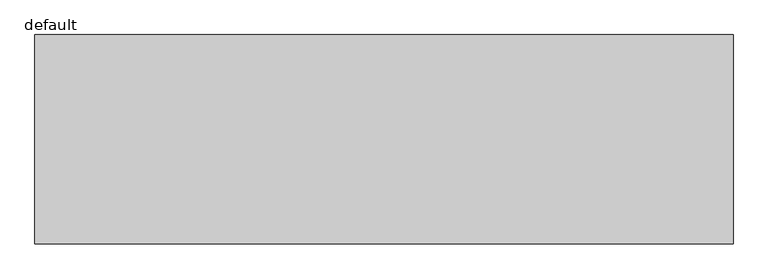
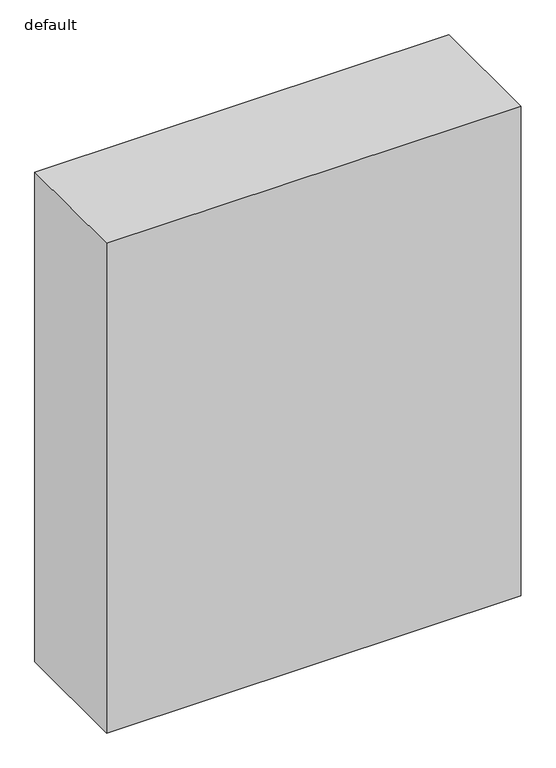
"""IFC4 building model written with IfcOpenShell, lengths in millimetres: furniture geometry, Fu_шкаф встроенный_LEG : default."""

import ifcopenshell
import ifcopenshell.guid

model = None  # the IFC model being written
_history = None  # IfcOwnerHistory: only IFC2X3 demands one
_inside = {}  # id of a spatial element -> (the spatial element, [elements in it])
_under = {}  # id of a project, library or spatial element -> (it, [spatial elements below it])
_declared = {}  # id of a project -> (the project, [libraries it declares])
_typed = {}  # id of a type object -> (the type object, [elements of that type])
_made_of = {}  # id of a material, layer set ... -> (it, [elements and type objects made of it])


def new_model(schema):
    """Start an empty IFC model of exactly this schema.

    Asked for "IFC4X3", IfcOpenShell would pick the latest addendum, in which some entities
    have other attributes; the version numbers below select the first issue.
    IFC2X3 requires an IfcOwnerHistory on every rooted entity: one is made here for all.
    """
    global model, _history
    if schema == "IFC4X3":
        model = ifcopenshell.file(schema_version=(4, 3, 0, 0))
    else:
        model = ifcopenshell.file(schema=schema)
    _inside.clear()
    _under.clear()
    _declared.clear()
    _typed.clear()
    _made_of.clear()
    _history = None
    if model.schema == "IFC2X3":
        org = make("IfcOrganization", Name="unknown")
        user = make(
            "IfcPersonAndOrganization",
            ThePerson=make("IfcPerson", FamilyName="unknown"),
            TheOrganization=org,
        )
        app = make(
            "IfcApplication",
            ApplicationDeveloper=org,
            Version="unknown",
            ApplicationFullName="unknown",
            ApplicationIdentifier="unknown",
        )
        _history = make(
            "IfcOwnerHistory",
            OwningUser=user,
            OwningApplication=app,
            ChangeAction="ADDED",
            CreationDate=0,
        )
    return model


def make(cls, **values):
    """One entity of the class cls with the attributes given. An attribute that is None is left unset."""
    return model.create_entity(
        cls, **{name: value for name, value in values.items() if value is not None}
    )


def rooted(cls, **values):
    """An entity with a GlobalId (a new one), such as an element, a storey or a relation."""
    return make(cls, GlobalId=ifcopenshell.guid.new(), OwnerHistory=_history, **values)


def si_unit(unit_type, name, prefix=None):
    """IfcSIUnit, for example si_unit("LENGTHUNIT", "METRE", prefix="MILLI")."""
    return make("IfcSIUnit", UnitType=unit_type, Prefix=prefix, Name=name)


def assignment(units):
    """IfcUnitAssignment: the units of a project."""
    return None if units is None else make("IfcUnitAssignment", Units=units)


def point(xyz):
    """IfcCartesianPoint."""
    return None if xyz is None else make("IfcCartesianPoint", Coordinates=xyz)


def direction(xyz):
    """IfcDirection."""
    return None if xyz is None else make("IfcDirection", DirectionRatios=xyz)


def frame(location, z_axis=None, x_axis=None):
    """IfcAxis2Placement3D, a coordinate frame: its origin and axes. An axis left out is left unset."""
    return make(
        "IfcAxis2Placement3D",
        Location=point(location),
        Axis=direction(z_axis),
        RefDirection=direction(x_axis),
    )


def origin():
    """The frame at (0, 0, 0) with its axes left unset."""
    return frame((0.0, 0.0, 0.0))


def origin_with_axes():
    """The frame at (0, 0, 0) with the z axis (0, 0, 1) and the x axis (1, 0, 0) written out."""
    return frame((0.0, 0.0, 0.0), z_axis=(0.0, 0.0, 1.0), x_axis=(1.0, 0.0, 0.0))


def place(relative_to, where):
    """IfcLocalPlacement: puts the frame where relative to a parent placement (None: the world)."""
    return make(
        "IfcLocalPlacement", PlacementRelTo=relative_to, RelativePlacement=where
    )


def context(
    kind, dimensions, precision=None, world=None, true_north=None, identifier=None
):
    """IfcGeometricRepresentationContext, for example the 3D "Model" context."""
    return make(
        "IfcGeometricRepresentationContext",
        ContextIdentifier=identifier,
        ContextType=kind,
        CoordinateSpaceDimension=dimensions,
        Precision=precision,
        WorldCoordinateSystem=world,
        TrueNorth=true_north,
    )


def project(units=None, contexts=None):
    """IfcProject with its units and contexts."""
    return rooted(
        "IfcProject",
        Name="project",
        RepresentationContexts=contexts,
        UnitsInContext=assignment(units),
    )


def spatial(cls, under=None, at=None, **own):
    """A site, building, storey or space (cls), placed at a placement, below another one or the project."""
    s = rooted(cls, ObjectPlacement=at, **own)
    if under is not None:
        _under.setdefault(under.id(), (under, []))[1].append(s)
    return s


def polyline(points):
    """IfcPolyline through the points."""
    return make("IfcPolyline", Points=[point(p) for p in points])


def outline(outer, holes=None, kind="AREA"):
    """IfcArbitraryClosedProfileDef: a profile drawn as a closed curve; with holes, ...WithVoids."""
    if holes is None:
        return make("IfcArbitraryClosedProfileDef", ProfileType=kind, OuterCurve=outer)
    return make(
        "IfcArbitraryProfileDefWithVoids",
        ProfileType=kind,
        OuterCurve=outer,
        InnerCurves=holes,
    )


def extrude(swept, where, along, depth):
    """IfcExtrudedAreaSolid: the profile swept, set in the frame where, extruded along a direction by depth."""
    return make(
        "IfcExtrudedAreaSolid",
        SweptArea=swept,
        Position=where,
        ExtrudedDirection=direction(along),
        Depth=depth,
    )


def shape(context_of_items, identifier, shape_type, items):
    """IfcShapeRepresentation: the items that make up one representation, for example the "Body"."""
    return make(
        "IfcShapeRepresentation",
        ContextOfItems=context_of_items,
        RepresentationIdentifier=identifier,
        RepresentationType=shape_type,
        Items=items,
    )


def source(mapping_origin, context_of_items, identifier, shape_type, items):
    """IfcRepresentationMap: a shape defined once, which mapped items show again and again."""
    return make(
        "IfcRepresentationMap",
        MappingOrigin=mapping_origin,
        MappedRepresentation=shape(context_of_items, identifier, shape_type, items),
    )


def transform(
    local_origin,
    x_axis=None,
    y_axis=None,
    z_axis=None,
    scale=None,
    scale2=None,
    scale3=None,
    uniform=True,
):
    """IfcCartesianTransformationOperator3D, or its non-uniform kind. x_axis, y_axis, z_axis: its Axis1, 2, 3."""
    if uniform:
        return make(
            "IfcCartesianTransformationOperator3D",
            Axis1=direction(x_axis),
            Axis2=direction(y_axis),
            LocalOrigin=point(local_origin),
            Scale=scale,
            Axis3=direction(z_axis),
        )
    return make(
        "IfcCartesianTransformationOperator3DnonUniform",
        Axis1=direction(x_axis),
        Axis2=direction(y_axis),
        LocalOrigin=point(local_origin),
        Scale=scale,
        Axis3=direction(z_axis),
        Scale2=scale2,
        Scale3=scale3,
    )


def mapped(mapping_source, mapping_target):
    """IfcMappedItem: shows the shape of a source again, moved by a transform."""
    return make(
        "IfcMappedItem", MappingSource=mapping_source, MappingTarget=mapping_target
    )


def made_of(thing, what):
    """Note that an element or type object is made of a material, layer set ...; save() writes the relation."""
    if what is not None:
        _made_of.setdefault(what.id(), (what, []))[1].append(thing)
    return thing


def element(
    cls,
    number,
    at=None,
    inside=None,
    cuts=None,
    type_object=None,
    material=None,
    context=None,
    identifier="Body",
    shape_type=None,
    held_by="IfcProductDefinitionShape",
    body=None,
    shapes=None,
    **own,
):
    """One element of the class cls, such as IfcWall. Its Tag is "e" and its number.

    at: its placement. inside: the storey or other place that contains it. cuts: it is an
    opening in that element (IfcRelVoidsElement). A single representation is given by context,
    identifier, shape_type and body (its items); several are given by shapes. held_by: the class
    of the entity that holds the representations. save() writes the other relations.
    """
    e = rooted(cls, Tag="e%d" % number, ObjectPlacement=at, **own)
    if body is not None:
        shapes = [shape(context, identifier, shape_type, body)]
    if shapes is not None:
        e.Representation = make(held_by, Representations=shapes)
    if inside is not None:
        _inside.setdefault(inside.id(), (inside, []))[1].append(e)
    if cuts is not None:
        rooted(
            "IfcRelVoidsElement", RelatingBuildingElement=cuts, RelatedOpeningElement=e
        )
    if type_object is not None:
        _typed.setdefault(type_object.id(), (type_object, []))[1].append(e)
    return made_of(e, material)


def aggregate(whole, parts):
    """IfcRelAggregates: a whole, such as a stair, and the parts it consists of."""
    return rooted("IfcRelAggregates", RelatingObject=whole, RelatedObjects=parts)


def save(model, path):
    """Write the relations noted so far, then the file.

    IfcRelAggregates (storeys below a building ...), IfcRelContainedInSpatialStructure (elements
    in a storey), IfcRelDefinesByType, IfcRelAssociatesMaterial and IfcRelDeclares: one each for
    every whole, place, type object, material and project.
    """
    for whole, parts in _under.values():
        aggregate(whole, parts)
    for where, things in _inside.values():
        rooted(
            "IfcRelContainedInSpatialStructure",
            RelatedElements=things,
            RelatingStructure=where,
        )
    for kind, things in _typed.values():
        rooted("IfcRelDefinesByType", RelatedObjects=things, RelatingType=kind)
    for what, things in _made_of.values():
        rooted("IfcRelAssociatesMaterial", RelatedObjects=things, RelatingMaterial=what)
    for by, libraries in _declared.values():
        rooted("IfcRelDeclares", RelatingContext=by, RelatedDefinitions=libraries)
    model.write(path)


def default_6ccb14ad(model_context):
    return source(origin(), model_context, "Body", "SweptSolid", [
        extrude(outline(polyline([(2002.2455305, 0.0), (0.0, 0.0), (0.0, 600.0), (2002.2455305, 600.0), (2002.2455305, 0.0)])), origin_with_axes(), (0.0, 0.0, 1.0), 2500.0),
    ])


if __name__ == "__main__":
    model = new_model("IFC4")
    model_context = context("Model", 3, world=origin())
    ifc_project = project(units=[si_unit("LENGTHUNIT", "METRE", prefix="MILLI")], contexts=[model_context])
    site = spatial("IfcSite", under=ifc_project)
    building = spatial("IfcBuilding", under=site)
    placement = place(None, origin())
    default_shape = default_6ccb14ad(model_context)
    element("IfcFurniture", 1, ObjectType="Fu_шкаф встроенный_LEG : default", at=placement, inside=building, context=model_context, shape_type="MappedRepresentation", body=[
        mapped(default_shape, transform((0.0, 0.0, 0.0), x_axis=(1.0, 0.0, 0.0), y_axis=(0.0, 1.0, 0.0), z_axis=(0.0, 0.0, 1.0))),
    ])
    save(model, "model.ifc")
